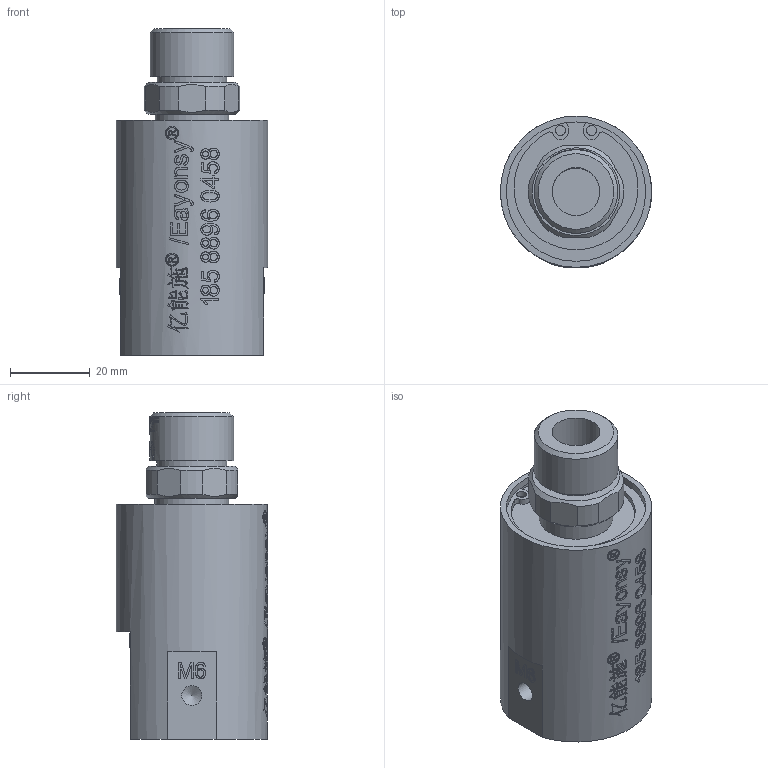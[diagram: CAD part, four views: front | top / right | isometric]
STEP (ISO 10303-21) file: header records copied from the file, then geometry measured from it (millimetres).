
FILE_DESCRIPTION(/* description */ (''),/* implementation_level */ '2;1');
FILE_NAME(/* name */ 'YC0104(RH)-3D模型.stp',/* time_stamp */ '2025-07-07T09:17:42+08:00',/* author */ (''),/* organization */ (''),/* preprocessor_version */ 'ST-DEVELOPER v16.7',/* originating_system */ 'SIEMENS PLM Software NX 12.0',/* authorisation */ '');
FILE_SCHEMA (('AUTOMOTIVE_DESIGN { 1 0 10303 214 3 1 1 1 }'));
Products named in the file (1): Admi1AA49A9B08an
Bounding box: 38 x 38.1 x 82 mm (x, y, z)
Volume: 59454.2 mm3; surface area: 15831.8 mm2
Topology: 1 solids, 1 shells, 1173 faces, 3255 edges, 2171 vertices
Faces by surface type: extrusion 703, plane 363, bspline 53, cylinder 49, cone 5
Full cylindrical faces by diameter (mm): 2.5 x2, 5 x2, 12 x2, 17.5 x1, 18.5 x2, 21 x1, 35 x1, 38 x1
Entity records: 48619 total; most frequent: CARTESIAN_POINT 23805, ORIENTED_EDGE 6452, B_SPLINE_CURVE_WITH_KNOTS 3333, EDGE_CURVE 3226, DIRECTION 2385, VERTEX_POINT 2161, EDGE_LOOP 1279, ADVANCED_FACE 1173
